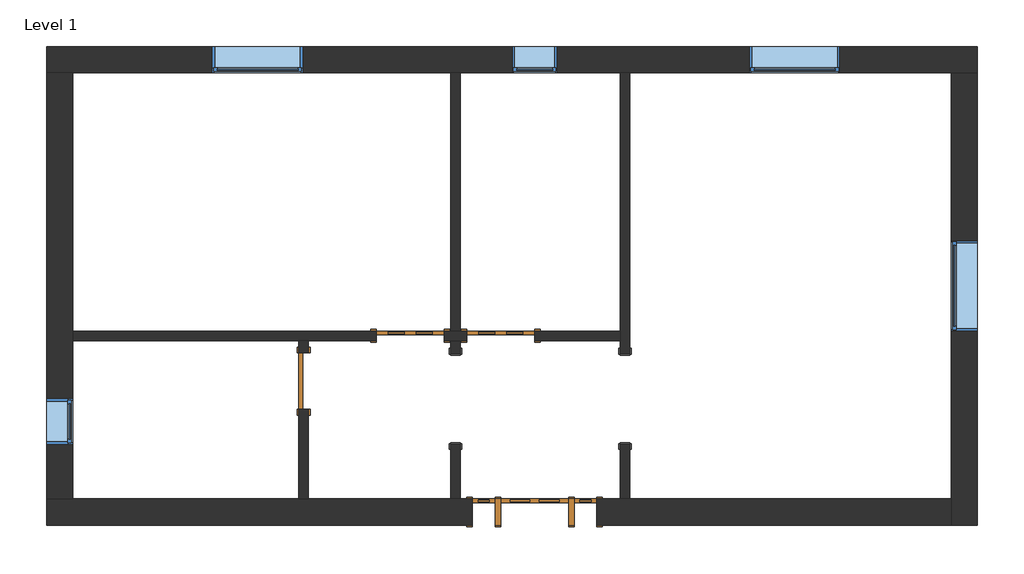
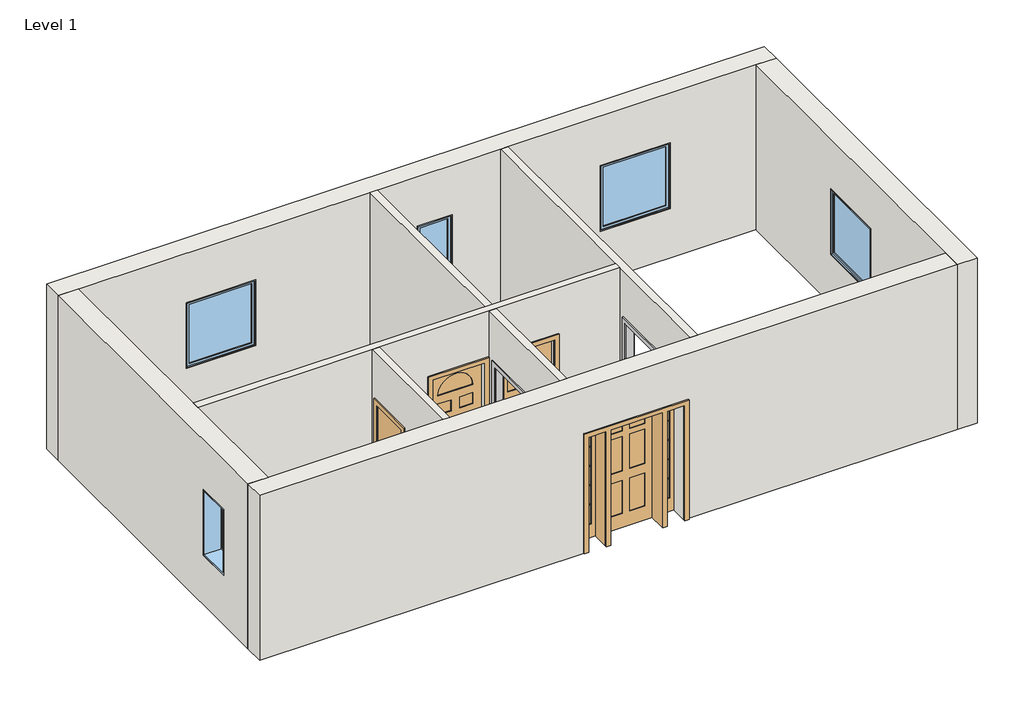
# One storey: 8 walls, 5 windows, 4 doors, 2 proxies.
"""IFC4 building model written with IfcOpenShell, lengths in millimetres."""

import ifcopenshell
import ifcopenshell.guid

model = None  # the IFC model being written
_history = None  # IfcOwnerHistory: only IFC2X3 demands one
_inside = {}  # id of a spatial element -> (the spatial element, [elements in it])
_under = {}  # id of a project, library or spatial element -> (it, [spatial elements below it])
_declared = {}  # id of a project -> (the project, [libraries it declares])
_typed = {}  # id of a type object -> (the type object, [elements of that type])
_made_of = {}  # id of a material, layer set ... -> (it, [elements and type objects made of it])


def new_model(schema):
    """Start an empty IFC model of exactly this schema.

    Asked for "IFC4X3", IfcOpenShell would pick the latest addendum, in which some entities
    have other attributes; the version numbers below select the first issue.
    IFC2X3 requires an IfcOwnerHistory on every rooted entity: one is made here for all.
    """
    global model, _history
    if schema == "IFC4X3":
        model = ifcopenshell.file(schema_version=(4, 3, 0, 0))
    else:
        model = ifcopenshell.file(schema=schema)
    _inside.clear()
    _under.clear()
    _declared.clear()
    _typed.clear()
    _made_of.clear()
    _history = None
    if model.schema == "IFC2X3":
        org = make("IfcOrganization", Name="unknown")
        user = make(
            "IfcPersonAndOrganization",
            ThePerson=make("IfcPerson", FamilyName="unknown"),
            TheOrganization=org,
        )
        app = make(
            "IfcApplication",
            ApplicationDeveloper=org,
            Version="unknown",
            ApplicationFullName="unknown",
            ApplicationIdentifier="unknown",
        )
        _history = make(
            "IfcOwnerHistory",
            OwningUser=user,
            OwningApplication=app,
            ChangeAction="ADDED",
            CreationDate=0,
        )
    return model


def make(cls, **values):
    """One entity of the class cls with the attributes given. An attribute that is None is left unset."""
    return model.create_entity(
        cls, **{name: value for name, value in values.items() if value is not None}
    )


def rooted(cls, **values):
    """An entity with a GlobalId (a new one), such as an element, a storey or a relation."""
    return make(cls, GlobalId=ifcopenshell.guid.new(), OwnerHistory=_history, **values)


def si_unit(unit_type, name, prefix=None):
    """IfcSIUnit, for example si_unit("LENGTHUNIT", "METRE", prefix="MILLI")."""
    return make("IfcSIUnit", UnitType=unit_type, Prefix=prefix, Name=name)


def assignment(units):
    """IfcUnitAssignment: the units of a project."""
    return None if units is None else make("IfcUnitAssignment", Units=units)


def point(xyz):
    """IfcCartesianPoint."""
    return None if xyz is None else make("IfcCartesianPoint", Coordinates=xyz)


def direction(xyz):
    """IfcDirection."""
    return None if xyz is None else make("IfcDirection", DirectionRatios=xyz)


def frame(location, z_axis=None, x_axis=None):
    """IfcAxis2Placement3D, a coordinate frame: its origin and axes. An axis left out is left unset."""
    return make(
        "IfcAxis2Placement3D",
        Location=point(location),
        Axis=direction(z_axis),
        RefDirection=direction(x_axis),
    )


def frame_2d(location, x_axis=None):
    """IfcAxis2Placement2D, a coordinate frame in the plane: its origin and x axis."""
    return make(
        "IfcAxis2Placement2D", Location=point(location), RefDirection=direction(x_axis)
    )


def origin():
    """The frame at (0, 0, 0) with its axes left unset."""
    return frame((0.0, 0.0, 0.0))


def origin_with_axes():
    """The frame at (0, 0, 0) with the z axis (0, 0, 1) and the x axis (1, 0, 0) written out."""
    return frame((0.0, 0.0, 0.0), z_axis=(0.0, 0.0, 1.0), x_axis=(1.0, 0.0, 0.0))


def place(relative_to, where):
    """IfcLocalPlacement: puts the frame where relative to a parent placement (None: the world)."""
    return make(
        "IfcLocalPlacement", PlacementRelTo=relative_to, RelativePlacement=where
    )


def context(
    kind, dimensions, precision=None, world=None, true_north=None, identifier=None
):
    """IfcGeometricRepresentationContext, for example the 3D "Model" context."""
    return make(
        "IfcGeometricRepresentationContext",
        ContextIdentifier=identifier,
        ContextType=kind,
        CoordinateSpaceDimension=dimensions,
        Precision=precision,
        WorldCoordinateSystem=world,
        TrueNorth=true_north,
    )


def project(units=None, contexts=None):
    """IfcProject with its units and contexts."""
    return rooted(
        "IfcProject",
        Name="project",
        RepresentationContexts=contexts,
        UnitsInContext=assignment(units),
    )


def spatial(cls, under=None, at=None, **own):
    """A site, building, storey or space (cls), placed at a placement, below another one or the project."""
    s = rooted(cls, ObjectPlacement=at, **own)
    if under is not None:
        _under.setdefault(under.id(), (under, []))[1].append(s)
    return s


def polyline(points):
    """IfcPolyline through the points."""
    return make("IfcPolyline", Points=[point(p) for p in points])


def circle_curve(where, radius):
    """IfcCircle in the frame where."""
    return make("IfcCircle", Position=where, Radius=radius)


def trimmed(basis, trim1, trim2, sense, master):
    """IfcTrimmedCurve: the piece of a basis curve between two trims."""
    return make(
        "IfcTrimmedCurve",
        BasisCurve=basis,
        Trim1=trim1,
        Trim2=trim2,
        SenseAgreement=sense,
        MasterRepresentation=master,
    )


def segment(curve, same_sense, transition):
    """IfcCompositeCurveSegment."""
    return make(
        "IfcCompositeCurveSegment",
        Transition=transition,
        SameSense=same_sense,
        ParentCurve=curve,
    )


def composite_curve(segments, self_intersect=None):
    """IfcCompositeCurve: segments joined end to end."""
    return make("IfcCompositeCurve", Segments=segments, SelfIntersect=self_intersect)


def outline(outer, holes=None, kind="AREA"):
    """IfcArbitraryClosedProfileDef: a profile drawn as a closed curve; with holes, ...WithVoids."""
    if holes is None:
        return make("IfcArbitraryClosedProfileDef", ProfileType=kind, OuterCurve=outer)
    return make(
        "IfcArbitraryProfileDefWithVoids",
        ProfileType=kind,
        OuterCurve=outer,
        InnerCurves=holes,
    )


def extrude(swept, where, along, depth):
    """IfcExtrudedAreaSolid: the profile swept, set in the frame where, extruded along a direction by depth."""
    return make(
        "IfcExtrudedAreaSolid",
        SweptArea=swept,
        Position=where,
        ExtrudedDirection=direction(along),
        Depth=depth,
    )


def faces_of(points, faces, orient=None, outer=None):
    """IfcFace entities. A face is a list of loops; a loop is a list of indices into points, from 0.

    orient and outer hold one flag for each loop. By default every Orientation is true, the
    first loop of a face is its IfcFaceOuterBound and the others are IfcFaceBound.
    """
    made = []
    for i, loops in enumerate(faces):
        bounds = []
        for j, loop in enumerate(loops):
            is_outer = j == 0 if outer is None else outer[i][j]
            bounds.append(
                make(
                    "IfcFaceOuterBound" if is_outer else "IfcFaceBound",
                    Bound=make("IfcPolyLoop", Polygon=[points[k] for k in loop]),
                    Orientation=True if orient is None else orient[i][j],
                )
            )
        made.append(make("IfcFace", Bounds=bounds))
    return made


def faceted_brep(points, faces, orient=None, outer=None, voids=None):
    """IfcFacetedBrep: a solid bounded by flat faces; with voids (closed shells), ...WithVoids."""
    shared = [point(p) for p in points]
    hull = make("IfcClosedShell", CfsFaces=faces_of(shared, faces, orient, outer))
    if voids is None:
        return make("IfcFacetedBrep", Outer=hull)
    return make(
        "IfcFacetedBrepWithVoids",
        Outer=hull,
        Voids=[
            make(cls, CfsFaces=faces_of(shared, fs, o, b)) for cls, fs, o, b in voids
        ],
    )


def shape(context_of_items, identifier, shape_type, items):
    """IfcShapeRepresentation: the items that make up one representation, for example the "Body"."""
    return make(
        "IfcShapeRepresentation",
        ContextOfItems=context_of_items,
        RepresentationIdentifier=identifier,
        RepresentationType=shape_type,
        Items=items,
    )


def source(mapping_origin, context_of_items, identifier, shape_type, items):
    """IfcRepresentationMap: a shape defined once, which mapped items show again and again."""
    return make(
        "IfcRepresentationMap",
        MappingOrigin=mapping_origin,
        MappedRepresentation=shape(context_of_items, identifier, shape_type, items),
    )


def transform(
    local_origin,
    x_axis=None,
    y_axis=None,
    z_axis=None,
    scale=None,
    scale2=None,
    scale3=None,
    uniform=True,
):
    """IfcCartesianTransformationOperator3D, or its non-uniform kind. x_axis, y_axis, z_axis: its Axis1, 2, 3."""
    if uniform:
        return make(
            "IfcCartesianTransformationOperator3D",
            Axis1=direction(x_axis),
            Axis2=direction(y_axis),
            LocalOrigin=point(local_origin),
            Scale=scale,
            Axis3=direction(z_axis),
        )
    return make(
        "IfcCartesianTransformationOperator3DnonUniform",
        Axis1=direction(x_axis),
        Axis2=direction(y_axis),
        LocalOrigin=point(local_origin),
        Scale=scale,
        Axis3=direction(z_axis),
        Scale2=scale2,
        Scale3=scale3,
    )


def mapped(mapping_source, mapping_target):
    """IfcMappedItem: shows the shape of a source again, moved by a transform."""
    return make(
        "IfcMappedItem", MappingSource=mapping_source, MappingTarget=mapping_target
    )


def made_of(thing, what):
    """Note that an element or type object is made of a material, layer set ...; save() writes the relation."""
    if what is not None:
        _made_of.setdefault(what.id(), (what, []))[1].append(thing)
    return thing


def element(
    cls,
    number,
    at=None,
    inside=None,
    cuts=None,
    type_object=None,
    material=None,
    context=None,
    identifier="Body",
    shape_type=None,
    held_by="IfcProductDefinitionShape",
    body=None,
    shapes=None,
    **own,
):
    """One element of the class cls, such as IfcWall. Its Tag is "e" and its number.

    at: its placement. inside: the storey or other place that contains it. cuts: it is an
    opening in that element (IfcRelVoidsElement). A single representation is given by context,
    identifier, shape_type and body (its items); several are given by shapes. held_by: the class
    of the entity that holds the representations. save() writes the other relations.
    """
    e = rooted(cls, Tag="e%d" % number, ObjectPlacement=at, **own)
    if body is not None:
        shapes = [shape(context, identifier, shape_type, body)]
    if shapes is not None:
        e.Representation = make(held_by, Representations=shapes)
    if inside is not None:
        _inside.setdefault(inside.id(), (inside, []))[1].append(e)
    if cuts is not None:
        rooted(
            "IfcRelVoidsElement", RelatingBuildingElement=cuts, RelatedOpeningElement=e
        )
    if type_object is not None:
        _typed.setdefault(type_object.id(), (type_object, []))[1].append(e)
    return made_of(e, material)


def aggregate(whole, parts):
    """IfcRelAggregates: a whole, such as a stair, and the parts it consists of."""
    return rooted("IfcRelAggregates", RelatingObject=whole, RelatedObjects=parts)


def save(model, path):
    """Write the relations noted so far, then the file.

    IfcRelAggregates (storeys below a building ...), IfcRelContainedInSpatialStructure (elements
    in a storey), IfcRelDefinesByType, IfcRelAssociatesMaterial and IfcRelDeclares: one each for
    every whole, place, type object, material and project.
    """
    for whole, parts in _under.values():
        aggregate(whole, parts)
    for where, things in _inside.values():
        rooted(
            "IfcRelContainedInSpatialStructure",
            RelatedElements=things,
            RelatingStructure=where,
        )
    for kind, things in _typed.values():
        rooted("IfcRelDefinesByType", RelatedObjects=things, RelatingType=kind)
    for what, things in _made_of.values():
        rooted("IfcRelAssociatesMaterial", RelatedObjects=things, RelatingMaterial=what)
    for by, libraries in _declared.values():
        rooted("IfcRelDeclares", RelatingContext=by, RelatedDefinitions=libraries)
    model.write(path)


def proxy_f44482cc(model_context):
    return source(origin(), model_context, "Body", "SolidModel", [
        extrude(outline(polyline([(0.0, -611.4386567), (2127.25, -611.4386567), (2127.25, 595.0613433), (0.0, 595.0613433), (0.0, 671.2613433), (2203.45, 671.2613433), (2203.45, -687.6386567), (0.0, -687.6386567), (0.0, -611.4386567)])), frame((0.0, -82.55, 0.0), z_axis=(0.0, 1.0, 0.0), x_axis=(0.0, 0.0, 1.0)), (0.0, 0.0, 1.0), 19.05),
        extrude(outline(polyline([(0.0, 671.2613433), (2209.8, 671.2613433), (2209.8, -687.6386567), (0.0, -687.6386567), (0.0, -611.4386567), (2127.25, -611.4386567), (2127.25, 595.0613433), (0.0, 595.0613433), (0.0, 671.2613433)])), frame((0.0, 63.5, 0.0), z_axis=(0.0, 1.0, 0.0), x_axis=(0.0, 0.0, 1.0)), (0.0, 0.0, 1.0), 19.05),
        faceted_brep([(582.3613433, 63.5, 0.0), (601.4113433, 63.5, 0.0), (601.4113433, -63.5, 0.0), (582.3613433, -63.5, 0.0), (582.3613433, 63.5, 2114.55), (601.4113433, 63.5, 2133.6), (601.4113433, -63.5, 2133.6), (582.3613433, -63.5, 2114.55), (-598.7386567, 63.5, 2114.55), (-617.7886567, 63.5, 2133.6), (-617.7886567, -63.5, 2133.6), (-598.7386567, -63.5, 2114.55), (-598.7386567, 63.5, 0.0), (-598.7386567, -63.5, 0.0), (-617.7886567, -63.5, 0.0), (-617.7886567, 63.5, 0.0)], [[[0, 1, 2, 3]], [[1, 0, 4, 5]], [[2, 1, 5, 6]], [[3, 2, 6, 7]], [[0, 3, 7, 4]], [[5, 4, 8, 9]], [[6, 5, 9, 10]], [[7, 6, 10, 11]], [[4, 7, 11, 8]], [[12, 13, 14, 15]], [[9, 8, 12, 15]], [[10, 9, 15, 14]], [[11, 10, 14, 13]], [[8, 11, 13, 12]]]),
    ])


def door_829da954(model_context):
    return source(origin(), model_context, "Body", "SweptSolid", [
        extrude(outline(polyline([(0.0, -457.2), (0.0, 457.2), (2133.6, 457.2), (2133.6, -457.2), (0.0, -457.2)]), holes=[polyline([(254.0, -76.2), (254.0, -304.8), (1219.2, -304.8), (1219.2, -76.2), (254.0, -76.2)]), polyline([(254.0, 304.8), (254.0, 76.2), (1219.2, 76.2), (1219.2, 304.8), (254.0, 304.8)]), polyline([(1371.6, 76.2), (1574.8, 76.2), (1574.8, 304.8), (1371.6, 304.8), (1371.6, 76.2)]), polyline([(1371.6, -304.8), (1574.8, -304.8), (1574.8, -76.2), (1371.6, -76.2), (1371.6, -304.8)]), composite_curve([segment(polyline([(1727.2, 304.8), (1727.2, -304.8)]), True, "CONTINUOUS"), segment(trimmed(circle_curve(frame_2d((1727.2, 0.0)), 304.8), [point((1727.2, -304.8))], [point((1727.2, 304.8))], True, "CARTESIAN"), True, "CONTINUOUS")], self_intersect=False)]), frame((0.0, -63.5, 0.0), z_axis=(0.0, 1.0, 0.0), x_axis=(0.0, 0.0, 1.0)), (0.0, 0.0, 1.0), 50.8),
        extrude(outline(polyline([(0.0, 457.2), (0.0, 533.4), (2209.8, 533.4), (2209.8, -533.4), (0.0, -533.4), (0.0, -457.2), (2133.6, -457.2), (2133.6, 457.2), (0.0, 457.2)])), frame((0.0, 63.5, 0.0), z_axis=(0.0, 1.0, 0.0), x_axis=(0.0, 0.0, 1.0)), (0.0, 0.0, 1.0), 25.4),
        extrude(outline(polyline([(2209.8, -533.4), (0.0, -533.4), (0.0, -457.2), (2133.6, -457.2), (2133.6, 457.2), (0.0, 457.2), (0.0, 533.4), (2209.8, 533.4), (2209.8, -533.4)])), frame((0.0, -88.9, 0.0), z_axis=(0.0, 1.0, 0.0), x_axis=(0.0, 0.0, 1.0)), (0.0, 0.0, 1.0), 25.4),
        extrude(outline(composite_curve([segment(polyline([(1727.2, -304.8), (1727.2, 304.8)]), True, "CONTINUOUS"), segment(trimmed(circle_curve(frame_2d((1727.2, 0.0)), 304.8), [point((1727.2, 304.8))], [point((1727.2, -304.8))], False, "CARTESIAN"), True, "CONTINUOUS")], self_intersect=False)), frame((0.0, -46.5666667, 0.0), z_axis=(0.0, 1.0, 0.0), x_axis=(0.0, 0.0, 1.0)), (0.0, 0.0, 1.0), 16.9333333),
        extrude(outline(polyline([(-304.8, -46.5666667), (-304.8, -29.6333333), (-76.2, -29.6333333), (-76.2, -46.5666667), (-304.8, -46.5666667)])), frame((0.0, 0.0, 254.0), z_axis=(0.0, 0.0, 1.0), x_axis=(1.0, 0.0, 0.0)), (0.0, 0.0, 1.0), 965.2),
        extrude(outline(polyline([(76.2, -46.5666667), (76.2, -29.6333333), (304.8, -29.6333333), (304.8, -46.5666667), (76.2, -46.5666667)])), frame((0.0, 0.0, 254.0), z_axis=(0.0, 0.0, 1.0), x_axis=(1.0, 0.0, 0.0)), (0.0, 0.0, 1.0), 965.2),
        extrude(outline(polyline([(76.2, -46.5666667), (76.2, -29.6333333), (304.8, -29.6333333), (304.8, -46.5666667), (76.2, -46.5666667)])), frame((0.0, 0.0, 1371.6), z_axis=(0.0, 0.0, 1.0), x_axis=(1.0, 0.0, 0.0)), (0.0, 0.0, 1.0), 203.2),
        extrude(outline(polyline([(-304.8, -46.5666667), (-304.8, -29.6333333), (-76.2, -29.6333333), (-76.2, -46.5666667), (-304.8, -46.5666667)])), frame((0.0, 0.0, 1371.6), z_axis=(0.0, 0.0, 1.0), x_axis=(1.0, 0.0, 0.0)), (0.0, 0.0, 1.0), 203.2),
    ])


def door_2e3b4da2(model_context):
    return source(origin(), model_context, "Body", "SweptSolid", [
        extrude(outline(polyline([(0.0, -457.2), (0.0, 457.2), (2133.6, 457.2), (2133.6, -457.2), (0.0, -457.2)]), holes=[polyline([(254.0, -76.2), (254.0, -304.8), (1219.2, -304.8), (1219.2, -76.2), (254.0, -76.2)]), polyline([(254.0, 304.8), (254.0, 76.2), (1219.2, 76.2), (1219.2, 304.8), (254.0, 304.8)]), polyline([(1371.6, 76.2), (1574.8, 76.2), (1574.8, 304.8), (1371.6, 304.8), (1371.6, 76.2)]), polyline([(1371.6, -304.8), (1574.8, -304.8), (1574.8, -76.2), (1371.6, -76.2), (1371.6, -304.8)]), composite_curve([segment(polyline([(1727.2, 304.8), (1727.2, -304.8)]), True, "CONTINUOUS"), segment(trimmed(circle_curve(frame_2d((1727.2, 0.0)), 304.8), [point((1727.2, -304.8))], [point((1727.2, 304.8))], True, "CARTESIAN"), True, "CONTINUOUS")], self_intersect=False)]), frame((0.0, 12.7, 0.0), z_axis=(0.0, 1.0, 0.0), x_axis=(0.0, 0.0, 1.0)), (0.0, 0.0, 1.0), 50.8),
        extrude(outline(polyline([(0.0, 457.2), (0.0, 533.4), (2209.8, 533.4), (2209.8, -533.4), (0.0, -533.4), (0.0, -457.2), (2133.6, -457.2), (2133.6, 457.2), (0.0, 457.2)])), frame((0.0, -88.9, 0.0), z_axis=(0.0, 1.0, 0.0), x_axis=(0.0, 0.0, 1.0)), (0.0, 0.0, 1.0), 25.4),
        extrude(outline(polyline([(2209.8, -533.4), (0.0, -533.4), (0.0, -457.2), (2133.6, -457.2), (2133.6, 457.2), (0.0, 457.2), (0.0, 533.4), (2209.8, 533.4), (2209.8, -533.4)])), frame((0.0, 63.5, 0.0), z_axis=(0.0, 1.0, 0.0), x_axis=(0.0, 0.0, 1.0)), (0.0, 0.0, 1.0), 25.4),
        extrude(outline(composite_curve([segment(polyline([(1727.2, -304.8), (1727.2, 304.8)]), True, "CONTINUOUS"), segment(trimmed(circle_curve(frame_2d((1727.2, 0.0)), 304.8), [point((1727.2, 304.8))], [point((1727.2, -304.8))], False, "CARTESIAN"), True, "CONTINUOUS")], self_intersect=False)), frame((0.0, 29.6333333, 0.0), z_axis=(0.0, 1.0, 0.0), x_axis=(0.0, 0.0, 1.0)), (0.0, 0.0, 1.0), 16.9333333),
        extrude(outline(polyline([(-304.8, 46.5666667), (-76.2, 46.5666667), (-76.2, 29.6333333), (-304.8, 29.6333333), (-304.8, 46.5666667)])), frame((0.0, 0.0, 254.0), z_axis=(0.0, 0.0, 1.0), x_axis=(1.0, 0.0, 0.0)), (0.0, 0.0, 1.0), 965.2),
        extrude(outline(polyline([(76.2, 46.5666667), (304.8, 46.5666667), (304.8, 29.6333333), (76.2, 29.6333333), (76.2, 46.5666667)])), frame((0.0, 0.0, 254.0), z_axis=(0.0, 0.0, 1.0), x_axis=(1.0, 0.0, 0.0)), (0.0, 0.0, 1.0), 965.2),
        extrude(outline(polyline([(76.2, 46.5666667), (304.8, 46.5666667), (304.8, 29.6333333), (76.2, 29.6333333), (76.2, 46.5666667)])), frame((0.0, 0.0, 1371.6), z_axis=(0.0, 0.0, 1.0), x_axis=(1.0, 0.0, 0.0)), (0.0, 0.0, 1.0), 203.2),
        extrude(outline(polyline([(-304.8, 46.5666667), (-76.2, 46.5666667), (-76.2, 29.6333333), (-304.8, 29.6333333), (-304.8, 46.5666667)])), frame((0.0, 0.0, 1371.6), z_axis=(0.0, 0.0, 1.0), x_axis=(1.0, 0.0, 0.0)), (0.0, 0.0, 1.0), 203.2),
    ])


def door_4d6c7550(model_context):
    return source(origin(), model_context, "Body", "SweptSolid", [
        extrude(outline(polyline([(2209.8, -457.2), (0.0, -457.2), (0.0, -381.0), (2133.6, -381.0), (2133.6, 381.0), (0.0, 381.0), (0.0, 457.2), (2209.8, 457.2), (2209.8, -457.2)])), frame((0.0, 63.5, 0.0), z_axis=(0.0, 1.0, 0.0), x_axis=(0.0, 0.0, 1.0)), (0.0, 0.0, 1.0), 25.4),
        extrude(outline(polyline([(2209.8, 457.2), (2209.8, -457.2), (0.0, -457.2), (0.0, -381.0), (2133.6, -381.0), (2133.6, 381.0), (0.0, 381.0), (0.0, 457.2), (2209.8, 457.2)])), frame((0.0, -88.9, 0.0), z_axis=(0.0, 1.0, 0.0), x_axis=(0.0, 0.0, 1.0)), (0.0, 0.0, 1.0), 25.4),
        extrude(outline(polyline([(381.0, 12.7), (-381.0, 12.7), (-381.0, 63.5), (381.0, 63.5), (381.0, 12.7)])), origin_with_axes(), (0.0, 0.0, 1.0), 2133.6),
    ])


def door_dba5aa2e(model_context):
    return source(origin(), model_context, "Body", "SweptSolid", [
        extrude(outline(polyline([(762.0, -134.9375), (762.0, -166.6875), (609.6, -166.6875), (609.6, -134.9375), (762.0, -134.9375)])), frame((0.0, 0.0, 600.075), z_axis=(0.0, 0.0, 1.0), x_axis=(1.0, 0.0, 0.0)), (0.0, 0.0, 1.0), 19.05),
        extrude(outline(polyline([(762.0, -134.9375), (762.0, -166.6875), (609.6, -166.6875), (609.6, -134.9375), (762.0, -134.9375)])), frame((0.0, 0.0, 955.675), z_axis=(0.0, 0.0, 1.0), x_axis=(1.0, 0.0, 0.0)), (0.0, 0.0, 1.0), 19.05),
        extrude(outline(polyline([(762.0, -134.9375), (762.0, -166.6875), (609.6, -166.6875), (609.6, -134.9375), (762.0, -134.9375)])), frame((0.0, 0.0, 1311.275), z_axis=(0.0, 0.0, 1.0), x_axis=(1.0, 0.0, 0.0)), (0.0, 0.0, 1.0), 19.05),
        extrude(outline(polyline([(762.0, -134.9375), (762.0, -166.6875), (609.6, -166.6875), (609.6, -134.9375), (762.0, -134.9375)])), frame((0.0, 0.0, 1666.875), z_axis=(0.0, 0.0, 1.0), x_axis=(1.0, 0.0, 0.0)), (0.0, 0.0, 1.0), 19.05),
        extrude(outline(polyline([(-609.6, -134.9375), (-609.6, -166.6875), (-762.0, -166.6875), (-762.0, -134.9375), (-609.6, -134.9375)])), frame((0.0, 0.0, 1666.875), z_axis=(0.0, 0.0, 1.0), x_axis=(1.0, 0.0, 0.0)), (0.0, 0.0, 1.0), 19.05),
        extrude(outline(polyline([(-609.6, -134.9375), (-609.6, -166.6875), (-762.0, -166.6875), (-762.0, -134.9375), (-609.6, -134.9375)])), frame((0.0, 0.0, 1311.275), z_axis=(0.0, 0.0, 1.0), x_axis=(1.0, 0.0, 0.0)), (0.0, 0.0, 1.0), 19.05),
        extrude(outline(polyline([(-609.6, -134.9375), (-609.6, -166.6875), (-762.0, -166.6875), (-762.0, -134.9375), (-609.6, -134.9375)])), frame((0.0, 0.0, 955.675), z_axis=(0.0, 0.0, 1.0), x_axis=(1.0, 0.0, 0.0)), (0.0, 0.0, 1.0), 19.05),
        extrude(outline(polyline([(-609.6, -134.9375), (-609.6, -166.6875), (-762.0, -166.6875), (-762.0, -134.9375), (-609.6, -134.9375)])), frame((0.0, 0.0, 600.075), z_axis=(0.0, 0.0, 1.0), x_axis=(1.0, 0.0, 0.0)), (0.0, 0.0, 1.0), 19.05),
        extrude(outline(polyline([(762.0, -141.2875), (762.0, -160.3375), (609.6, -160.3375), (609.6, -141.2875), (762.0, -141.2875)])), frame((0.0, 0.0, 254.0), z_axis=(0.0, 0.0, 1.0), x_axis=(1.0, 0.0, 0.0)), (0.0, 0.0, 1.0), 1778.0),
        extrude(outline(polyline([(-609.6, -141.2875), (-609.6, -160.3375), (-762.0, -160.3375), (-762.0, -141.2875), (-609.6, -141.2875)])), frame((0.0, 0.0, 254.0), z_axis=(0.0, 0.0, 1.0), x_axis=(1.0, 0.0, 0.0)), (0.0, 0.0, 1.0), 1778.0),
        extrude(outline(polyline([(-457.2, 176.2125), (-457.2, -176.2125), (-533.4, -176.2125), (-533.4, 176.2125), (-457.2, 176.2125)])), origin_with_axes(), (0.0, 0.0, 1.0), 2133.6),
        extrude(outline(polyline([(533.4, 176.2125), (533.4, -176.2125), (457.2, -176.2125), (457.2, 176.2125), (533.4, 176.2125)])), origin_with_axes(), (0.0, 0.0, 1.0), 2133.6),
        extrude(outline(polyline([(2133.6, -533.4), (2133.6, -838.2), (0.0, -838.2), (0.0, -533.4), (2133.6, -533.4)]), holes=[polyline([(2032.0, -609.6), (254.0, -609.6), (254.0, -762.0), (2032.0, -762.0), (2032.0, -609.6)])]), frame((0.0, -176.2125, 0.0), z_axis=(0.0, 1.0, 0.0), x_axis=(0.0, 0.0, 1.0)), (0.0, 0.0, 1.0), 50.8),
        extrude(outline(polyline([(0.0, 533.4), (0.0, 838.2), (2133.6, 838.2), (2133.6, 533.4), (0.0, 533.4)]), holes=[polyline([(2032.0, 762.0), (254.0, 762.0), (254.0, 609.6), (2032.0, 609.6), (2032.0, 762.0)])]), frame((0.0, -176.2125, 0.0), z_axis=(0.0, 1.0, 0.0), x_axis=(0.0, 0.0, 1.0)), (0.0, 0.0, 1.0), 50.8),
        extrude(outline(polyline([(0.0, -914.4), (0.0, -838.2), (2133.6, -838.2), (2133.6, -533.4), (0.0, -533.4), (0.0, -457.2), (2133.6, -457.2), (2133.6, 457.2), (0.0, 457.2), (0.0, 533.4), (2133.6, 533.4), (2133.6, 838.2), (0.0, 838.2), (0.0, 914.4), (2209.8, 914.4), (2209.8, -914.4), (0.0, -914.4)])), frame((0.0, 176.2125, 0.0), z_axis=(0.0, 1.0, 0.0), x_axis=(0.0, 0.0, 1.0)), (0.0, 0.0, 1.0), 25.4),
        extrude(outline(polyline([(0.0, 914.4), (2209.8, 914.4), (2209.8, -914.4), (0.0, -914.4), (0.0, -838.2), (2133.6, -838.2), (2133.6, -533.4), (0.0, -533.4), (0.0, -457.2), (2133.6, -457.2), (2133.6, 457.2), (0.0, 457.2), (0.0, 533.4), (2133.6, 533.4), (2133.6, 838.2), (0.0, 838.2), (0.0, 914.4)])), frame((0.0, -201.6125, 0.0), z_axis=(0.0, 1.0, 0.0), x_axis=(0.0, 0.0, 1.0)), (0.0, 0.0, 1.0), 25.4),
        extrude(outline(polyline([(-63.5, -138.1125), (-63.5, -163.5125), (-330.2, -163.5125), (-330.2, -138.1125), (-63.5, -138.1125)])), frame((0.0, 0.0, 1778.0), z_axis=(0.0, 0.0, 1.0), x_axis=(1.0, 0.0, 0.0)), (0.0, 0.0, 1.0), 254.0),
        extrude(outline(polyline([(330.2, -138.1125), (330.2, -163.5125), (63.5, -163.5125), (63.5, -138.1125), (330.2, -138.1125)])), frame((0.0, 0.0, 1778.0), z_axis=(0.0, 0.0, 1.0), x_axis=(1.0, 0.0, 0.0)), (0.0, 0.0, 1.0), 254.0),
        extrude(outline(polyline([(-63.5, -138.1125), (-63.5, -163.5125), (-330.2, -163.5125), (-330.2, -138.1125), (-63.5, -138.1125)])), frame((0.0, 0.0, 1041.4), z_axis=(0.0, 0.0, 1.0), x_axis=(1.0, 0.0, 0.0)), (0.0, 0.0, 1.0), 635.0),
        extrude(outline(polyline([(330.2, -138.1125), (330.2, -163.5125), (63.5, -163.5125), (63.5, -138.1125), (330.2, -138.1125)])), frame((0.0, 0.0, 1041.4), z_axis=(0.0, 0.0, 1.0), x_axis=(1.0, 0.0, 0.0)), (0.0, 0.0, 1.0), 635.0),
        extrude(outline(polyline([(-63.5, -138.1125), (-63.5, -163.5125), (-330.2, -163.5125), (-330.2, -138.1125), (-63.5, -138.1125)])), frame((0.0, 0.0, 254.0), z_axis=(0.0, 0.0, 1.0), x_axis=(1.0, 0.0, 0.0)), (0.0, 0.0, 1.0), 609.6),
        extrude(outline(polyline([(330.2, -138.1125), (330.2, -163.5125), (63.5, -163.5125), (63.5, -138.1125), (330.2, -138.1125)])), frame((0.0, 0.0, 254.0), z_axis=(0.0, 0.0, 1.0), x_axis=(1.0, 0.0, 0.0)), (0.0, 0.0, 1.0), 609.6),
        extrude(outline(polyline([(2133.6, 457.2), (2133.6, -457.2), (0.0, -457.2), (0.0, 457.2), (2133.6, 457.2)]), holes=[polyline([(2032.0, -63.5), (1778.0, -63.5), (1778.0, -330.2), (2032.0, -330.2), (2032.0, -63.5)]), polyline([(2032.0, 330.2), (1778.0, 330.2), (1778.0, 63.5), (2032.0, 63.5), (2032.0, 330.2)]), polyline([(1676.4, -63.5), (1041.4, -63.5), (1041.4, -330.2), (1676.4, -330.2), (1676.4, -63.5)]), polyline([(1676.4, 330.2), (1041.4, 330.2), (1041.4, 63.5), (1676.4, 63.5), (1676.4, 330.2)]), polyline([(863.6, -63.5), (254.0, -63.5), (254.0, -330.2), (863.6, -330.2), (863.6, -63.5)]), polyline([(863.6, 330.2), (254.0, 330.2), (254.0, 63.5), (863.6, 63.5), (863.6, 330.2)])]), frame((0.0, -176.2125, 0.0), z_axis=(0.0, 1.0, 0.0), x_axis=(0.0, 0.0, 1.0)), (0.0, 0.0, 1.0), 50.8),
    ])


def window_60baf983(model_context):
    return source(origin(), model_context, "Body", "SweptSolid", [
        extrude(outline(polyline([(203.2, 128.5875), (-279.4, 128.5875), (-279.4, 141.2875), (203.2, 141.2875), (203.2, 128.5875)])), frame((0.0, 0.0, 977.9), z_axis=(0.0, 0.0, 1.0), x_axis=(1.0, 0.0, 0.0)), (0.0, 0.0, 1.0), 1092.2),
        extrude(outline(polyline([(2114.55, -323.85), (933.45, -323.85), (933.45, 247.65), (2114.55, 247.65), (2114.55, -323.85)]), holes=[polyline([(2070.1, -279.4), (2070.1, 203.2), (977.9, 203.2), (977.9, -279.4), (2070.1, -279.4)])]), frame((0.0, 112.7125, 0.0), z_axis=(0.0, 1.0, 0.0), x_axis=(0.0, 0.0, 1.0)), (0.0, 0.0, 1.0), 44.45),
        extrude(outline(polyline([(2133.6, -342.9), (914.4, -342.9), (914.4, 266.7), (2133.6, 266.7), (2133.6, -342.9)]), holes=[polyline([(2101.85, -311.15), (2101.85, 234.95), (946.15, 234.95), (946.15, -311.15), (2101.85, -311.15)])]), frame((0.0, -176.2125, 0.0), z_axis=(0.0, 1.0, 0.0), x_axis=(0.0, 0.0, 1.0)), (0.0, 0.0, 1.0), 288.925),
        extrude(outline(polyline([(2133.6, 266.7), (2133.6, -342.9), (914.4, -342.9), (914.4, 266.7), (2133.6, 266.7)]), holes=[polyline([(2114.55, 247.65), (933.45, 247.65), (933.45, -323.85), (2114.55, -323.85), (2114.55, 247.65)])]), frame((0.0, 112.7125, 0.0), z_axis=(0.0, 1.0, 0.0), x_axis=(0.0, 0.0, 1.0)), (0.0, 0.0, 1.0), 63.5),
    ])


def window_6eb97611(model_context):
    return source(origin(), model_context, "Body", "SweptSolid", [
        extrude(outline(polyline([(508.0, 128.5875), (-584.2, 128.5875), (-584.2, 141.2875), (508.0, 141.2875), (508.0, 128.5875)])), frame((0.0, 0.0, 977.9), z_axis=(0.0, 0.0, 1.0), x_axis=(1.0, 0.0, 0.0)), (0.0, 0.0, 1.0), 1092.2),
        extrude(outline(polyline([(2114.55, -628.65), (933.45, -628.65), (933.45, 552.45), (2114.55, 552.45), (2114.55, -628.65)]), holes=[polyline([(2070.1, -584.2), (2070.1, 508.0), (977.9, 508.0), (977.9, -584.2), (2070.1, -584.2)])]), frame((0.0, 112.7125, 0.0), z_axis=(0.0, 1.0, 0.0), x_axis=(0.0, 0.0, 1.0)), (0.0, 0.0, 1.0), 44.45),
        extrude(outline(polyline([(2133.6, -647.7), (914.4, -647.7), (914.4, 571.5), (2133.6, 571.5), (2133.6, -647.7)]), holes=[polyline([(2101.85, -615.95), (2101.85, 539.75), (946.15, 539.75), (946.15, -615.95), (2101.85, -615.95)])]), frame((0.0, -176.2125, 0.0), z_axis=(0.0, 1.0, 0.0), x_axis=(0.0, 0.0, 1.0)), (0.0, 0.0, 1.0), 288.925),
        extrude(outline(polyline([(2133.6, 571.5), (2133.6, -647.7), (914.4, -647.7), (914.4, 571.5), (2133.6, 571.5)]), holes=[polyline([(2114.55, 552.45), (933.45, 552.45), (933.45, -628.65), (2114.55, -628.65), (2114.55, 552.45)])]), frame((0.0, 112.7125, 0.0), z_axis=(0.0, 1.0, 0.0), x_axis=(0.0, 0.0, 1.0)), (0.0, 0.0, 1.0), 63.5),
    ])


model = new_model("IFC4")

# Units and contexts
model_context = context("Model", 3, world=origin())
ifc_project = project(units=[si_unit("LENGTHUNIT", "METRE", prefix="MILLI")], contexts=[model_context])

# Site, building, storey
site = spatial("IfcSite", under=ifc_project)
building = spatial("IfcBuilding", under=site)
storey = spatial("IfcBuildingStorey", under=building, Name="Level 1", Elevation=0.0)

# Proxies
placement = place(None, origin())
proxy_shape = proxy_f44482cc(model_context)
element("IfcBuildingElementProxy", 1, Name="Opening-Cased : 48\" x 84\"", ObjectType="Opening-Cased : 48\" x 84\"", at=placement, inside=storey, context=model_context, shape_type="MappedRepresentation", body=[
    mapped(proxy_shape, transform((-3773.4589563, 5882.4203434, 0.0), x_axis=(0.0, 1.0, 0.0), y_axis=(-1.0, 0.0, 0.0), z_axis=(0.0, 0.0, 1.0))),
])
element("IfcBuildingElementProxy", 2, Name="Opening-Cased : 48\" x 84\"", ObjectType="Opening-Cased : 48\" x 84\"", at=placement, inside=storey, context=model_context, shape_type="MappedRepresentation", body=[
    mapped(proxy_shape, transform((-6059.4589563, 5866.04303, 0.0), x_axis=(0.0, -1.0, 0.0), y_axis=(1.0, 0.0, 0.0), z_axis=(0.0, 0.0, 1.0))),
])

# Doors
door_shape = door_829da954(model_context)
element("IfcDoor", 3, ObjectType="Single-Decorative 2 : 36\" x 84\"", at=placement, inside=storey, context=model_context, shape_type="MappedRepresentation", body=[
    mapped(door_shape, transform((-5449.8589563, 6723.5441867, 0.0), x_axis=(-1.0, 0.0, 0.0), y_axis=(0.0, -1.0, 0.0), z_axis=(0.0, 0.0, 1.0))),
])
door_2_shape = door_2e3b4da2(model_context)
element("IfcDoor", 4, ObjectType="Single-Decorative 2 : 36\" x 84\"", at=placement, inside=storey, context=model_context, shape_type="MappedRepresentation", body=[
    mapped(door_2_shape, transform((-6669.0589563, 6723.5441867, 0.0), x_axis=(1.0, 0.0, 0.0), y_axis=(0.0, 1.0, 0.0), z_axis=(0.0, 0.0, 1.0))),
])
door_3_shape = door_4d6c7550(model_context)
element("IfcDoor", 5, ObjectType="Single-Flush : 30\" x 84\"", at=placement, inside=storey, context=model_context, shape_type="MappedRepresentation", body=[
    mapped(door_3_shape, transform((-8105.7464563, 6113.9441867, 0.0), x_axis=(0.0, 1.0, 0.0), y_axis=(-1.0, 0.0, 0.0), z_axis=(0.0, 0.0, 1.0))),
])
door_4_shape = door_dba5aa2e(model_context)
element("IfcDoor", 6, ObjectType="Single-Raised Panel with Sidelights : 36\" x 84\"", at=placement, inside=storey, context=model_context, shape_type="MappedRepresentation", body=[
    mapped(door_4_shape, transform((-4992.6589563, 4350.2316867, 0.0), x_axis=(-1.0, 0.0, 0.0), y_axis=(0.0, -1.0, 0.0), z_axis=(0.0, 0.0, 1.0))),
])

# Walls
element("IfcWall", 7, ObjectType="Exterior - Brick on Mtl. Stud", at=placement, inside=storey, context=model_context, shape_type="Brep", body=[
    faceted_brep([(-11569.6714563, 10270.0191867, 0.0), (-11217.2464563, 10270.0191867, 0.0), (-6122.9589563, 10270.0191867, 0.0), (-5995.9589563, 10270.0191867, 0.0), (-3836.9589563, 10270.0191867, 0.0), (-3709.9589563, 10270.0191867, 0.0), (622.3285437, 10270.0191867, 0.0), (974.7535437, 10270.0191867, 0.0), (974.7535437, 10270.0191867, 3048.0), (622.3285437, 10270.0191867, 3048.0), (-3709.9589563, 10270.0191867, 3048.0), (-3836.9589563, 10270.0191867, 3048.0), (-5995.9589563, 10270.0191867, 3048.0), (-6122.9589563, 10270.0191867, 3048.0), (-11217.2464563, 10270.0191867, 3048.0), (-11569.6714563, 10270.0191867, 3048.0), (-5297.4589563, 10270.0191867, 2133.6), (-4687.8589563, 10270.0191867, 2133.6), (-4687.8589563, 10270.0191867, 914.4), (-5297.4589563, 10270.0191867, 914.4), (-9336.0589563, 10270.0191867, 2133.6), (-8116.8589563, 10270.0191867, 2133.6), (-8116.8589563, 10270.0191867, 914.4), (-9336.0589563, 10270.0191867, 914.4), (-2097.0589563, 10270.0191867, 2133.6), (-877.8589563, 10270.0191867, 2133.6), (-877.8589563, 10270.0191867, 914.4), (-2097.0589563, 10270.0191867, 914.4), (-11569.6714563, 10622.4441867, 0.0), (-11569.6714563, 10622.4441867, 3048.0), (974.7535437, 10622.4441867, 3048.0), (974.7535437, 10622.4441867, 0.0), (-5297.4589563, 10622.4441867, 2133.6), (-5297.4589563, 10622.4441867, 914.4), (-4687.8589563, 10622.4441867, 914.4), (-4687.8589563, 10622.4441867, 2133.6), (-9336.0589563, 10622.4441867, 2133.6), (-9336.0589563, 10622.4441867, 914.4), (-8116.8589563, 10622.4441867, 914.4), (-8116.8589563, 10622.4441867, 2133.6), (-2097.0589563, 10622.4441867, 2133.6), (-2097.0589563, 10622.4441867, 914.4), (-877.8589563, 10622.4441867, 914.4), (-877.8589563, 10622.4441867, 2133.6)], [[[0, 1, 2, 3, 4, 5, 6, 7, 8, 9, 10, 11, 12, 13, 14, 15], [16, 17, 18, 19], [20, 21, 22, 23], [24, 25, 26, 27]], [[28, 29, 30, 31], [32, 33, 34, 35], [36, 37, 38, 39], [40, 41, 42, 43]], [[7, 6, 5, 4, 3, 2, 1, 0, 28, 31]], [[15, 14, 13, 12, 11, 10, 9, 8, 30, 29]], [[8, 7, 31, 30]], [[0, 15, 29, 28]], [[33, 32, 16, 19]], [[34, 33, 19, 18]], [[35, 34, 18, 17]], [[32, 35, 17, 16]], [[37, 36, 20, 23]], [[38, 37, 23, 22]], [[39, 38, 22, 21]], [[36, 39, 21, 20]], [[41, 40, 24, 27]], [[42, 41, 27, 26]], [[43, 42, 26, 25]], [[40, 43, 25, 24]]]),
])
element("IfcWall", 8, ObjectType="Exterior - Brick on Mtl. Stud", at=placement, inside=storey, context=model_context, shape_type="Brep", body=[
    faceted_brep([(622.3285437, 10270.0191867, 0.0), (622.3285437, 4526.4441867, 0.0), (622.3285437, 4174.0191867, 0.0), (622.3285437, 4174.0191867, 3048.0), (622.3285437, 4526.4441867, 3048.0), (622.3285437, 10270.0191867, 3048.0), (622.3285437, 8007.8316867, 2133.6), (622.3285437, 6788.6316867, 2133.6), (622.3285437, 6788.6316867, 914.4), (622.3285437, 8007.8316867, 914.4), (974.7535437, 10270.0191867, 0.0), (974.7535437, 10270.0191867, 3048.0), (974.7535437, 4174.0191867, 3048.0), (974.7535437, 4174.0191867, 0.0), (974.7535437, 8007.8316867, 2133.6), (974.7535437, 8007.8316867, 914.4), (974.7535437, 6788.6316867, 914.4), (974.7535437, 6788.6316867, 2133.6)], [[[0, 1, 2, 3, 4, 5], [6, 7, 8, 9]], [[10, 11, 12, 13], [14, 15, 16, 17]], [[2, 1, 0, 10, 13]], [[5, 4, 3, 12, 11]], [[3, 2, 13, 12]], [[0, 5, 11, 10]], [[15, 14, 6, 9]], [[16, 15, 9, 8]], [[17, 16, 8, 7]], [[14, 17, 7, 6]]]),
])
element("IfcWall", 9, ObjectType="Exterior - Brick on Mtl. Stud", at=placement, inside=storey, context=model_context, shape_type="Brep", body=[
    faceted_brep([(-5830.8589563, 4526.4441867, 2133.6), (-5830.8589563, 4526.4441867, 0.0), (-5995.9589563, 4526.4441867, 0.0), (-6122.9589563, 4526.4441867, 0.0), (-8042.2464563, 4526.4441867, 0.0), (-8169.2464563, 4526.4441867, 0.0), (-11217.2464563, 4526.4441867, 0.0), (-11569.6714563, 4526.4441867, 0.0), (-11569.6714563, 4526.4441867, 3048.0), (-11217.2464563, 4526.4441867, 3048.0), (-8169.2464563, 4526.4441867, 3048.0), (-8042.2464563, 4526.4441867, 3048.0), (-6122.9589563, 4526.4441867, 3048.0), (-5995.9589563, 4526.4441867, 3048.0), (-3836.9589563, 4526.4441867, 3048.0), (-3709.9589563, 4526.4441867, 3048.0), (622.3285437, 4526.4441867, 3048.0), (622.3285437, 4526.4441867, 0.0), (-3709.9589563, 4526.4441867, 0.0), (-3836.9589563, 4526.4441867, 0.0), (-4154.4589563, 4526.4441867, 0.0), (-4154.4589563, 4526.4441867, 2133.6), (-11569.6714563, 4174.0191867, 0.0), (-5830.8589563, 4174.0191867, 0.0), (-5830.8589563, 4174.0191867, 2133.6), (-4154.4589563, 4174.0191867, 2133.6), (-4154.4589563, 4174.0191867, 0.0), (622.3285437, 4174.0191867, 0.0), (622.3285437, 4174.0191867, 3048.0), (-11569.6714563, 4174.0191867, 3048.0)], [[[0, 1, 2, 3, 4, 5, 6, 7, 8, 9, 10, 11, 12, 13, 14, 15, 16, 17, 18, 19, 20, 21]], [[22, 23, 24, 25, 26, 27, 28, 29]], [[7, 6, 5, 4, 3, 2, 1, 23, 22]], [[20, 19, 18, 17, 27, 26]], [[16, 15, 14, 13, 12, 11, 10, 9, 8, 29, 28]], [[8, 7, 22, 29]], [[17, 16, 28, 27]], [[24, 23, 1, 0]], [[25, 24, 0, 21]], [[26, 25, 21, 20]]]),
])
element("IfcWall", 10, ObjectType="Exterior - Brick on Mtl. Stud", at=placement, inside=storey, context=model_context, shape_type="Brep", body=[
    faceted_brep([(-11217.2464563, 4526.4441867, 0.0), (-11217.2464563, 6660.0441867, 0.0), (-11217.2464563, 6787.0441867, 0.0), (-11217.2464563, 10270.0191867, 0.0), (-11217.2464563, 10270.0191867, 3048.0), (-11217.2464563, 6787.0441867, 3048.0), (-11217.2464563, 6660.0441867, 3048.0), (-11217.2464563, 4526.4441867, 3048.0), (-11217.2464563, 5264.6316867, 2133.6), (-11217.2464563, 5874.2316867, 2133.6), (-11217.2464563, 5874.2316867, 914.4), (-11217.2464563, 5264.6316867, 914.4), (-11569.6714563, 4526.4441867, 0.0), (-11569.6714563, 4526.4441867, 3048.0), (-11569.6714563, 10270.0191867, 3048.0), (-11569.6714563, 10270.0191867, 0.0), (-11569.6714563, 5264.6316867, 2133.6), (-11569.6714563, 5264.6316867, 914.4), (-11569.6714563, 5874.2316867, 914.4), (-11569.6714563, 5874.2316867, 2133.6)], [[[0, 1, 2, 3, 4, 5, 6, 7], [8, 9, 10, 11]], [[12, 13, 14, 15], [16, 17, 18, 19]], [[3, 2, 1, 0, 12, 15]], [[7, 6, 5, 4, 14, 13]], [[0, 7, 13, 12]], [[4, 3, 15, 14]], [[17, 16, 8, 11]], [[18, 17, 11, 10]], [[19, 18, 10, 9]], [[16, 19, 9, 8]]]),
])
element("IfcWall", 11, ObjectType="Interior - 5\" Partition (2-hr)", at=placement, inside=storey, context=model_context, shape_type="Brep", body=[
    faceted_brep([(-3836.9589563, 10270.0191867, 0.0), (-3836.9589563, 6787.0441867, 0.0), (-3836.9589563, 6660.0441867, 0.0), (-3836.9589563, 6483.8316867, 0.0), (-3836.9589563, 6483.8316867, 2133.6), (-3836.9589563, 5264.6316867, 2133.6), (-3836.9589563, 5264.6316867, 0.0), (-3836.9589563, 4526.4441867, 0.0), (-3836.9589563, 4526.4441867, 3048.0), (-3836.9589563, 6660.0441867, 3048.0), (-3836.9589563, 6787.0441867, 3048.0), (-3836.9589563, 10270.0191867, 3048.0), (-3709.9589563, 6483.8316867, 2133.6), (-3709.9589563, 6483.8316867, 0.0), (-3709.9589563, 10270.0191867, 0.0), (-3709.9589563, 10270.0191867, 3048.0), (-3709.9589563, 4526.4441867, 3048.0), (-3709.9589563, 4526.4441867, 0.0), (-3709.9589563, 5264.6316867, 0.0), (-3709.9589563, 5264.6316867, 2133.6)], [[[0, 1, 2, 3, 4, 5, 6, 7, 8, 9, 10, 11]], [[12, 13, 14, 15, 16, 17, 18, 19]], [[14, 13, 3, 2, 1, 0]], [[18, 17, 7, 6]], [[11, 10, 9, 8, 16, 15]], [[0, 11, 15, 14]], [[8, 7, 17, 16]], [[6, 5, 19, 18]], [[4, 3, 13, 12]], [[5, 4, 12, 19]]]),
])
element("IfcWall", 12, ObjectType="Interior - 5\" Partition (2-hr)", at=placement, inside=storey, context=model_context, shape_type="SweptSolid", body=[
    extrude(outline(polyline([(5264.6316867, 2133.6), (5264.6316867, 0.0), (4526.4441867, 0.0), (4526.4441867, 3048.0), (10270.0191867, 3048.0), (10270.0191867, 0.0), (6483.8316867, 0.0), (6483.8316867, 2133.6), (5264.6316867, 2133.6)])), frame((-6122.9589563, 0.0, 0.0), z_axis=(1.0, 0.0, 0.0), x_axis=(0.0, 1.0, 0.0)), (0.0, 0.0, 1.0), 127.0),
])
element("IfcWall", 13, ObjectType="Interior - 5\" Partition (2-hr)", at=placement, inside=storey, context=model_context, shape_type="Brep", body=[
    faceted_brep([(-6211.8589563, 6660.0441867, 2133.6), (-6211.8589563, 6660.0441867, 0.0), (-5907.0589563, 6660.0441867, 0.0), (-5907.0589563, 6660.0441867, 2133.6), (-4992.6589563, 6660.0441867, 2133.6), (-4992.6589563, 6660.0441867, 0.0), (-3836.9589563, 6660.0441867, 0.0), (-3836.9589563, 6660.0441867, 3048.0), (-8042.2464563, 6660.0441867, 3048.0), (-8169.2464563, 6660.0441867, 3048.0), (-11217.2464563, 6660.0441867, 3048.0), (-11217.2464563, 6660.0441867, 0.0), (-8169.2464563, 6660.0441867, 0.0), (-8042.2464563, 6660.0441867, 0.0), (-7126.2589563, 6660.0441867, 0.0), (-7126.2589563, 6660.0441867, 2133.6), (-5907.0589563, 6787.0441867, 0.0), (-6211.8589563, 6787.0441867, 0.0), (-6211.8589563, 6787.0441867, 2133.6), (-7126.2589563, 6787.0441867, 2133.6), (-7126.2589563, 6787.0441867, 0.0), (-11217.2464563, 6787.0441867, 0.0), (-11217.2464563, 6787.0441867, 3048.0), (-3836.9589563, 6787.0441867, 3048.0), (-3836.9589563, 6787.0441867, 0.0), (-4992.6589563, 6787.0441867, 0.0), (-4992.6589563, 6787.0441867, 2133.6), (-5907.0589563, 6787.0441867, 2133.6)], [[[0, 1, 2, 3, 4, 5, 6, 7, 8, 9, 10, 11, 12, 13, 14, 15]], [[16, 17, 18, 19, 20, 21, 22, 23, 24, 25, 26, 27]], [[2, 1, 17, 16]], [[25, 24, 6, 5]], [[14, 13, 12, 11, 21, 20]], [[10, 9, 8, 7, 23, 22]], [[11, 10, 22, 21]], [[7, 6, 24, 23]], [[3, 2, 16, 27]], [[4, 3, 27, 26]], [[5, 4, 26, 25]], [[18, 17, 1, 0]], [[19, 18, 0, 15]], [[20, 19, 15, 14]]]),
])
element("IfcWall", 14, ObjectType="Interior - 5\" Partition (2-hr)", at=placement, inside=storey, context=model_context, shape_type="SweptSolid", body=[
    extrude(outline(polyline([(6660.0441867, 0.0), (6494.9441867, 0.0), (6494.9441867, 2133.6), (5732.9441867, 2133.6), (5732.9441867, 0.0), (4526.4441867, 0.0), (4526.4441867, 3048.0), (6660.0441867, 3048.0), (6660.0441867, 0.0)])), frame((-8169.2464563, 0.0, 0.0), z_axis=(1.0, 0.0, 0.0), x_axis=(0.0, 1.0, 0.0)), (0.0, 0.0, 1.0), 127.0),
])

# Windows
window_shape = window_60baf983(model_context)
element("IfcWindow", 15, ObjectType="Fixed : 24\" x 48\"", at=placement, inside=storey, context=model_context, shape_type="MappedRepresentation", body=[
    mapped(window_shape, transform((-5030.7589563, 10446.2316867, 0.0), x_axis=(-1.0, 0.0, 0.0), y_axis=(0.0, -1.0, 0.0), z_axis=(0.0, 0.0, 1.0))),
])
element("IfcWindow", 16, ObjectType="Fixed : 24\" x 48\"", at=placement, inside=storey, context=model_context, shape_type="MappedRepresentation", body=[
    mapped(window_shape, transform((-11393.4589563, 5531.3316867, 0.0), x_axis=(0.0, -1.0, 0.0), y_axis=(1.0, 0.0, 0.0), z_axis=(0.0, 0.0, 1.0))),
])
window_2_shape = window_6eb97611(model_context)
element("IfcWindow", 17, ObjectType="Fixed : 48\" x 48\"", at=placement, inside=storey, context=model_context, shape_type="MappedRepresentation", body=[
    mapped(window_2_shape, transform((-8764.5589563, 10446.2316867, 0.0), x_axis=(-1.0, 0.0, 0.0), y_axis=(0.0, -1.0, 0.0), z_axis=(0.0, 0.0, 1.0))),
])
element("IfcWindow", 18, ObjectType="Fixed : 48\" x 48\"", at=placement, inside=storey, context=model_context, shape_type="MappedRepresentation", body=[
    mapped(window_2_shape, transform((-1525.5589563, 10446.2316867, 0.0), x_axis=(-1.0, 0.0, 0.0), y_axis=(0.0, -1.0, 0.0), z_axis=(0.0, 0.0, 1.0))),
])
element("IfcWindow", 19, ObjectType="Fixed : 48\" x 48\"", at=placement, inside=storey, context=model_context, shape_type="MappedRepresentation", body=[
    mapped(window_2_shape, transform((798.5410437, 7436.3316867, 0.0), x_axis=(0.0, 1.0, 0.0), y_axis=(-1.0, 0.0, 0.0), z_axis=(0.0, 0.0, 1.0))),
])

save(model, "model.ifc")
